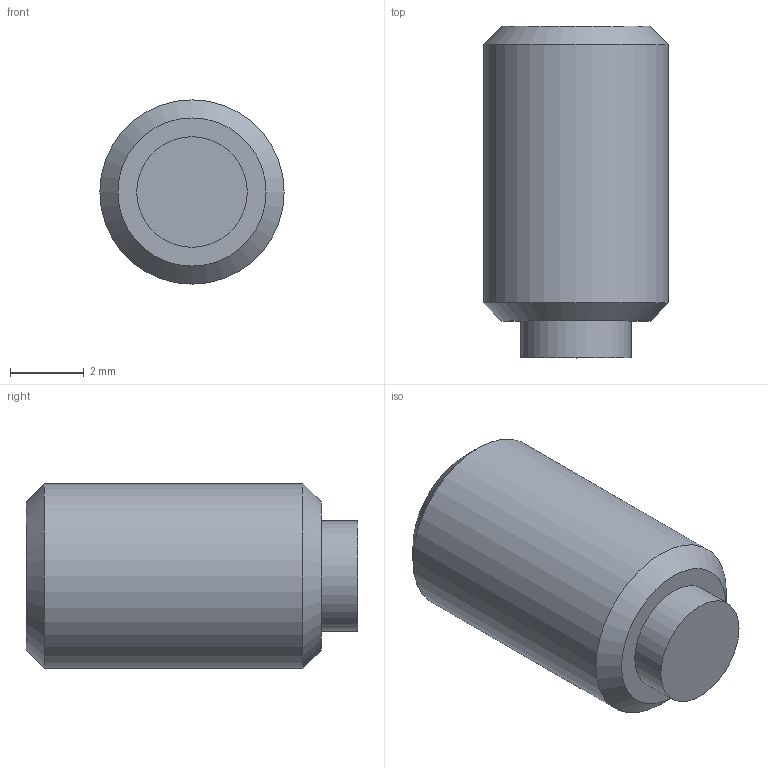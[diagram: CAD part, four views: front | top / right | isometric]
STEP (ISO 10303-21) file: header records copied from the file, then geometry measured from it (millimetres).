
FILE_DESCRIPTION( ( 'STEP AP203' ), '1' );
FILE_NAME( 'C:/Temp/Ganter_Step_05_03_2020/data/3_2/gn913_3/Grub screw GN 913.3-M5-8-KU.stp', '2020-03-13T05:35:34', ( 'License CC BY-ND 4.0' ), ( 'CADENAS' ), ' ', 'PARTsolutions', ' ' );
FILE_SCHEMA( ( 'CONFIG_CONTROL_DESIGN' ) );
Length unit declared in the file: millimetre
Products named in the file (1): _Grub screw GN 913.3-M5-8-KU
Bounding box: 5 x 9 x 5 mm (x, y, z)
Volume: 144.4 mm3; surface area: 190.7 mm2
Topology: 1 solids, 1 shells, 14 faces, 28 edges, 18 vertices
Faces by surface type: plane 10, cylinder 2, cone 2
Full cylindrical faces by diameter (mm): 3 x1, 5 x1
Entity records: 386 total; most frequent: DIRECTION 60, CARTESIAN_POINT 57, ORIENTED_EDGE 48, EDGE_CURVE 24, AXIS2_PLACEMENT_3D 21, EDGE_LOOP 20, VERTEX_POINT 18, LINE 18
